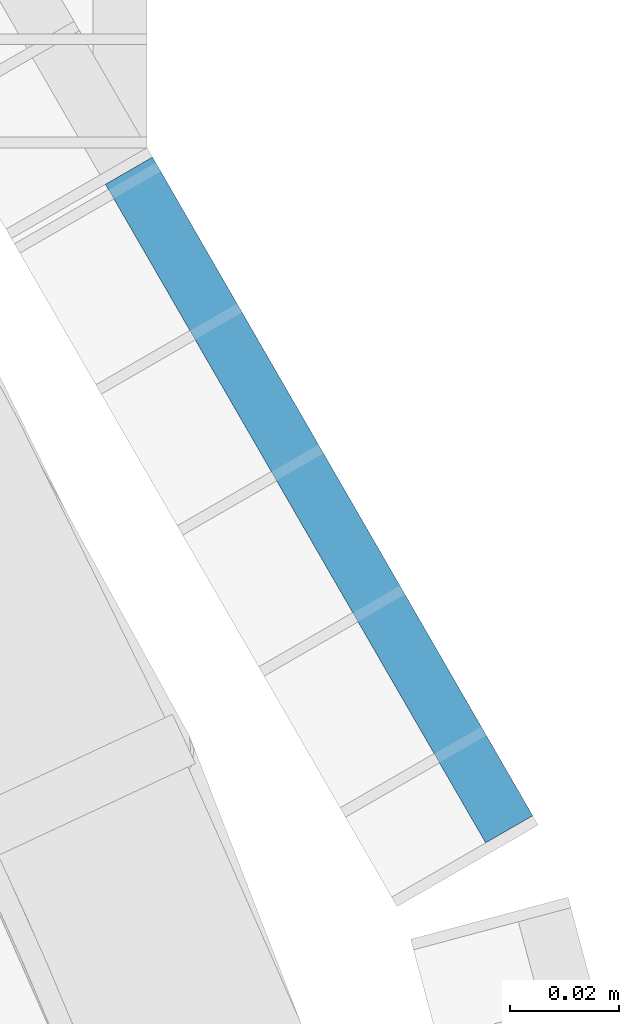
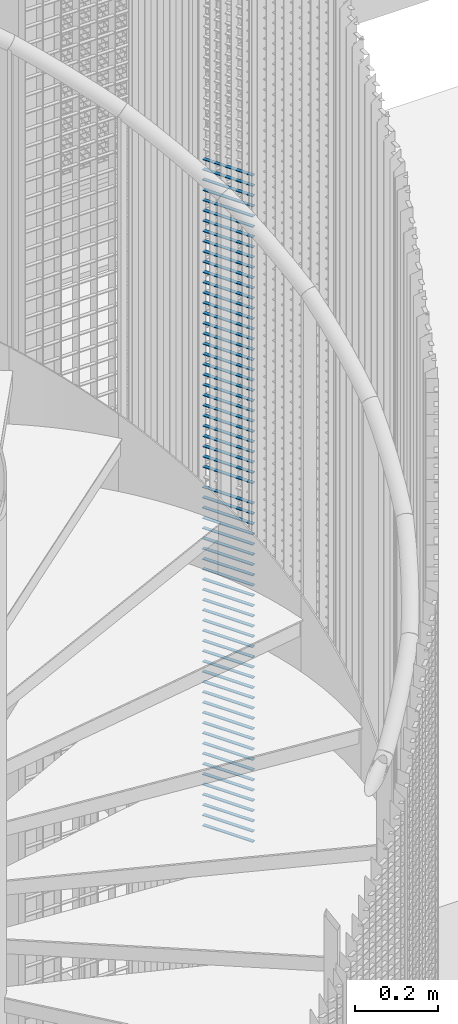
# One storey, part 269 of 1148: 65 beams, 1 element without a shape of its own.
"""IFC2X3 building model written with IfcOpenShell, lengths in millimetres."""

from ifc_helpers import new_model, si_unit, frame, origin_with_axes, origin_2d_with_axis, place, context, subcontext, project, spatial, rectangle, extrude, material, type_object, element, aggregate, save


model = new_model("IFC2X3")

# Units and contexts
model_context = context("Model", 3, precision=1e-05, world=origin_with_axes())
body_context = subcontext(model_context, "Body", "Model", "MODEL_VIEW")
ifc_project = project(units=[si_unit("LENGTHUNIT", "METRE", prefix="MILLI"), si_unit("AREAUNIT", "SQUARE_METRE"), si_unit("VOLUMEUNIT", "CUBIC_METRE"), si_unit("MASSUNIT", "GRAM", prefix="KILO"), si_unit("TIMEUNIT", "SECOND"), si_unit("PLANEANGLEUNIT", "RADIAN"), si_unit("SOLIDANGLEUNIT", "STERADIAN"), si_unit("THERMODYNAMICTEMPERATUREUNIT", "DEGREE_CELSIUS"), si_unit("LUMINOUSINTENSITYUNIT", "LUMEN")], contexts=[model_context])

# Site, building, storey
site_placement = place(None, origin_with_axes())
site = spatial("IfcSite", under=ifc_project, at=site_placement, Name="Undefined", CompositionType="ELEMENT")
building_placement = place(site_placement, origin_with_axes())
building = spatial("IfcBuilding", under=site, at=building_placement, Name="Undefined", CompositionType="ELEMENT")
storey_placement = place(building_placement, origin_with_axes())
storey = spatial("IfcBuildingStorey", under=building, at=storey_placement, Name="Undefined", CompositionType="ELEMENT", Elevation=0.0)

# Assembly, beams
assembly_placement = place(storey_placement, origin_with_axes())
assembly = element("IfcElementAssembly", 1, at=assembly_placement, inside=storey, Name="BORDURE", AssemblyPlace="NOTDEFINED", PredefinedType="NOTDEFINED")
ifc_material = material(Name="STEEL/S235JR")
beam_type = type_object("IfcBeamType", Name="PL2*10", PredefinedType="NOTDEFINED")
beam_1_placement = place(assembly_placement, frame((1033.29994283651, 437.231999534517, 14040.0), z_axis=(0.866030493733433, 0.499991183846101, 0.0), x_axis=(-0.499991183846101, 0.866030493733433, 0.0)))
beam_1 = element("IfcBeam", 2, at=beam_1_placement, type_object=beam_type, material=ifc_material, Name="ENTRETOISE", context=body_context, shape_type="SweptSolid", body=[
    extrude(rectangle(XDim=2.0, YDim=10.0, at=origin_2d_with_axis()), frame((140.102470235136, 0.0, 0.0), z_axis=(-1.0, 0.0, 0.0), x_axis=(0.0, -1.0, 0.0)), (0.0, 0.0, 1.0), 140.1),
])
beam_2_placement = place(assembly_placement, frame((1033.29994283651, 437.231999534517, 14010.0), z_axis=(0.866030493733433, 0.499991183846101, 0.0), x_axis=(-0.499991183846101, 0.866030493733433, 0.0)))
beam_2 = element("IfcBeam", 3, at=beam_2_placement, type_object=beam_type, material=ifc_material, Name="ENTRETOISE", context=body_context, shape_type="SweptSolid", body=[
    extrude(rectangle(XDim=2.0, YDim=10.0, at=origin_2d_with_axis()), frame((140.102470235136, 0.0, 0.0), z_axis=(-1.0, 0.0, 0.0), x_axis=(0.0, -1.0, 0.0)), (0.0, 0.0, 1.0), 140.1),
])
beam_3_placement = place(assembly_placement, frame((1033.29994283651, 437.231999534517, 13980.0), z_axis=(0.866030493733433, 0.499991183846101, 0.0), x_axis=(-0.499991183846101, 0.866030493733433, 0.0)))
beam_3 = element("IfcBeam", 4, at=beam_3_placement, type_object=beam_type, material=ifc_material, Name="ENTRETOISE", context=body_context, shape_type="SweptSolid", body=[
    extrude(rectangle(XDim=2.0, YDim=10.0, at=origin_2d_with_axis()), frame((140.102470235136, 0.0, 0.0), z_axis=(-1.0, 0.0, 0.0), x_axis=(0.0, -1.0, 0.0)), (0.0, 0.0, 1.0), 140.1),
])
beam_4_placement = place(assembly_placement, frame((1033.29994283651, 437.231999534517, 13950.0), z_axis=(0.866030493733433, 0.499991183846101, 0.0), x_axis=(-0.499991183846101, 0.866030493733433, 0.0)))
beam_4 = element("IfcBeam", 5, at=beam_4_placement, type_object=beam_type, material=ifc_material, Name="ENTRETOISE", context=body_context, shape_type="SweptSolid", body=[
    extrude(rectangle(XDim=2.0, YDim=10.0, at=origin_2d_with_axis()), frame((140.102470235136, 0.0, 0.0), z_axis=(-1.0, 0.0, 0.0), x_axis=(0.0, -1.0, 0.0)), (0.0, 0.0, 1.0), 140.1),
])
beam_5_placement = place(assembly_placement, frame((1033.29994283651, 437.231999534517, 13920.0), z_axis=(0.866030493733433, 0.499991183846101, 0.0), x_axis=(-0.499991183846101, 0.866030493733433, 0.0)))
beam_5 = element("IfcBeam", 6, at=beam_5_placement, type_object=beam_type, material=ifc_material, Name="ENTRETOISE", context=body_context, shape_type="SweptSolid", body=[
    extrude(rectangle(XDim=2.0, YDim=10.0, at=origin_2d_with_axis()), frame((140.102470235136, 0.0, 0.0), z_axis=(-1.0, 0.0, 0.0), x_axis=(0.0, -1.0, 0.0)), (0.0, 0.0, 1.0), 140.1),
])
beam_6_placement = place(assembly_placement, frame((1033.29994283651, 437.231999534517, 13890.0), z_axis=(0.866030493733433, 0.499991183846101, 0.0), x_axis=(-0.499991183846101, 0.866030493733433, 0.0)))
beam_6 = element("IfcBeam", 7, at=beam_6_placement, type_object=beam_type, material=ifc_material, Name="ENTRETOISE", context=body_context, shape_type="SweptSolid", body=[
    extrude(rectangle(XDim=2.0, YDim=10.0, at=origin_2d_with_axis()), frame((140.102470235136, 0.0, 0.0), z_axis=(-1.0, 0.0, 0.0), x_axis=(0.0, -1.0, 0.0)), (0.0, 0.0, 1.0), 140.1),
])
beam_7_placement = place(assembly_placement, frame((1033.29994283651, 437.231999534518, 13860.0), z_axis=(0.866030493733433, 0.499991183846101, 0.0), x_axis=(-0.499991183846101, 0.866030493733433, 0.0)))
beam_7 = element("IfcBeam", 8, at=beam_7_placement, type_object=beam_type, material=ifc_material, Name="ENTRETOISE", context=body_context, shape_type="SweptSolid", body=[
    extrude(rectangle(XDim=2.0, YDim=10.0, at=origin_2d_with_axis()), frame((140.102470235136, 0.0, 0.0), z_axis=(-1.0, 0.0, 0.0), x_axis=(0.0, -1.0, 0.0)), (0.0, 0.0, 1.0), 140.1),
])
beam_8_placement = place(assembly_placement, frame((1033.29994283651, 437.231999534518, 13830.0), z_axis=(0.866030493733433, 0.499991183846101, 0.0), x_axis=(-0.499991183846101, 0.866030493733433, 0.0)))
beam_8 = element("IfcBeam", 9, at=beam_8_placement, type_object=beam_type, material=ifc_material, Name="ENTRETOISE", context=body_context, shape_type="SweptSolid", body=[
    extrude(rectangle(XDim=2.0, YDim=10.0, at=origin_2d_with_axis()), frame((140.102470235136, 0.0, 0.0), z_axis=(-1.0, 0.0, 0.0), x_axis=(0.0, -1.0, 0.0)), (0.0, 0.0, 1.0), 140.1),
])
beam_9_placement = place(assembly_placement, frame((1033.29994283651, 437.231999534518, 13800.0), z_axis=(0.866030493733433, 0.499991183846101, 0.0), x_axis=(-0.499991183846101, 0.866030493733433, 0.0)))
beam_9 = element("IfcBeam", 10, at=beam_9_placement, type_object=beam_type, material=ifc_material, Name="ENTRETOISE", context=body_context, shape_type="SweptSolid", body=[
    extrude(rectangle(XDim=2.0, YDim=10.0, at=origin_2d_with_axis()), frame((140.102470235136, 0.0, 0.0), z_axis=(-1.0, 0.0, 0.0), x_axis=(0.0, -1.0, 0.0)), (0.0, 0.0, 1.0), 140.1),
])
beam_10_placement = place(assembly_placement, frame((1033.29994283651, 437.231999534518, 13770.0), z_axis=(0.866030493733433, 0.499991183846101, 0.0), x_axis=(-0.499991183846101, 0.866030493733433, 0.0)))
beam_10 = element("IfcBeam", 11, at=beam_10_placement, type_object=beam_type, material=ifc_material, Name="ENTRETOISE", context=body_context, shape_type="SweptSolid", body=[
    extrude(rectangle(XDim=2.0, YDim=10.0, at=origin_2d_with_axis()), frame((140.102470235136, 0.0, 0.0), z_axis=(-1.0, 0.0, 0.0), x_axis=(0.0, -1.0, 0.0)), (0.0, 0.0, 1.0), 140.1),
])
beam_11_placement = place(assembly_placement, frame((1033.29994283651, 437.231999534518, 13740.0), z_axis=(0.866030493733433, 0.499991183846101, 0.0), x_axis=(-0.499991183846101, 0.866030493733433, 0.0)))
beam_11 = element("IfcBeam", 12, at=beam_11_placement, type_object=beam_type, material=ifc_material, Name="ENTRETOISE", context=body_context, shape_type="SweptSolid", body=[
    extrude(rectangle(XDim=2.0, YDim=10.0, at=origin_2d_with_axis()), frame((140.102470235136, 0.0, 0.0), z_axis=(-1.0, 0.0, 0.0), x_axis=(0.0, -1.0, 0.0)), (0.0, 0.0, 1.0), 140.1),
])
beam_12_placement = place(assembly_placement, frame((1033.29994283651, 437.231999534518, 13710.0), z_axis=(0.866030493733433, 0.499991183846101, 0.0), x_axis=(-0.499991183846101, 0.866030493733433, 0.0)))
beam_12 = element("IfcBeam", 13, at=beam_12_placement, type_object=beam_type, material=ifc_material, Name="ENTRETOISE", context=body_context, shape_type="SweptSolid", body=[
    extrude(rectangle(XDim=2.0, YDim=10.0, at=origin_2d_with_axis()), frame((140.102470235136, 0.0, 0.0), z_axis=(-1.0, 0.0, 0.0), x_axis=(0.0, -1.0, 0.0)), (0.0, 0.0, 1.0), 140.1),
])
beam_13_placement = place(assembly_placement, frame((1033.29994283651, 437.231999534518, 13680.0), z_axis=(0.866030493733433, 0.499991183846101, 0.0), x_axis=(-0.499991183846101, 0.866030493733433, 0.0)))
beam_13 = element("IfcBeam", 14, at=beam_13_placement, type_object=beam_type, material=ifc_material, Name="ENTRETOISE", context=body_context, shape_type="SweptSolid", body=[
    extrude(rectangle(XDim=2.0, YDim=10.0, at=origin_2d_with_axis()), frame((140.102470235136, 0.0, 0.0), z_axis=(-1.0, 0.0, 0.0), x_axis=(0.0, -1.0, 0.0)), (0.0, 0.0, 1.0), 140.1),
])
beam_14_placement = place(assembly_placement, frame((1033.29994283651, 437.231999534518, 13650.0), z_axis=(0.866030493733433, 0.499991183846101, 0.0), x_axis=(-0.499991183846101, 0.866030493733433, 0.0)))
beam_14 = element("IfcBeam", 15, at=beam_14_placement, type_object=beam_type, material=ifc_material, Name="ENTRETOISE", context=body_context, shape_type="SweptSolid", body=[
    extrude(rectangle(XDim=2.0, YDim=10.0, at=origin_2d_with_axis()), frame((140.102470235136, 0.0, 0.0), z_axis=(-1.0, 0.0, 0.0), x_axis=(0.0, -1.0, 0.0)), (0.0, 0.0, 1.0), 140.1),
])
beam_15_placement = place(assembly_placement, frame((1033.29994283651, 437.231999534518, 13620.0), z_axis=(0.866030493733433, 0.499991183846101, 0.0), x_axis=(-0.499991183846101, 0.866030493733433, 0.0)))
beam_15 = element("IfcBeam", 16, at=beam_15_placement, type_object=beam_type, material=ifc_material, Name="ENTRETOISE", context=body_context, shape_type="SweptSolid", body=[
    extrude(rectangle(XDim=2.0, YDim=10.0, at=origin_2d_with_axis()), frame((140.102470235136, 0.0, 0.0), z_axis=(-1.0, 0.0, 0.0), x_axis=(0.0, -1.0, 0.0)), (0.0, 0.0, 1.0), 140.1),
])
beam_16_placement = place(assembly_placement, frame((1033.29994283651, 437.231999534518, 13590.0), z_axis=(0.866030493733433, 0.499991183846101, 0.0), x_axis=(-0.499991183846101, 0.866030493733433, 0.0)))
beam_16 = element("IfcBeam", 17, at=beam_16_placement, type_object=beam_type, material=ifc_material, Name="ENTRETOISE", context=body_context, shape_type="SweptSolid", body=[
    extrude(rectangle(XDim=2.0, YDim=10.0, at=origin_2d_with_axis()), frame((140.102470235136, 0.0, 0.0), z_axis=(-1.0, 0.0, 0.0), x_axis=(0.0, -1.0, 0.0)), (0.0, 0.0, 1.0), 140.1),
])
beam_17_placement = place(assembly_placement, frame((1033.29994283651, 437.231999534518, 13560.0), z_axis=(0.866030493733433, 0.499991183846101, 0.0), x_axis=(-0.499991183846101, 0.866030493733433, 0.0)))
beam_17 = element("IfcBeam", 18, at=beam_17_placement, type_object=beam_type, material=ifc_material, Name="ENTRETOISE", context=body_context, shape_type="SweptSolid", body=[
    extrude(rectangle(XDim=2.0, YDim=10.0, at=origin_2d_with_axis()), frame((140.102470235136, 0.0, 0.0), z_axis=(-1.0, 0.0, 0.0), x_axis=(0.0, -1.0, 0.0)), (0.0, 0.0, 1.0), 140.1),
])
beam_18_placement = place(assembly_placement, frame((1033.29994283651, 437.231999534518, 13530.0), z_axis=(0.866030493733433, 0.499991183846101, 0.0), x_axis=(-0.499991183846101, 0.866030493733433, 0.0)))
beam_18 = element("IfcBeam", 19, at=beam_18_placement, type_object=beam_type, material=ifc_material, Name="ENTRETOISE", context=body_context, shape_type="SweptSolid", body=[
    extrude(rectangle(XDim=2.0, YDim=10.0, at=origin_2d_with_axis()), frame((140.102470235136, 0.0, 0.0), z_axis=(-1.0, 0.0, 0.0), x_axis=(0.0, -1.0, 0.0)), (0.0, 0.0, 1.0), 140.1),
])
beam_19_placement = place(assembly_placement, frame((1033.29994283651, 437.231999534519, 13500.0), z_axis=(0.866030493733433, 0.499991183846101, 0.0), x_axis=(-0.499991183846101, 0.866030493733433, 0.0)))
beam_19 = element("IfcBeam", 20, at=beam_19_placement, type_object=beam_type, material=ifc_material, Name="ENTRETOISE", context=body_context, shape_type="SweptSolid", body=[
    extrude(rectangle(XDim=2.0, YDim=10.0, at=origin_2d_with_axis()), frame((140.102470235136, 0.0, 0.0), z_axis=(-1.0, 0.0, 0.0), x_axis=(0.0, -1.0, 0.0)), (0.0, 0.0, 1.0), 140.1),
])
beam_20_placement = place(assembly_placement, frame((1033.29994283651, 437.231999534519, 13470.0), z_axis=(0.866030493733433, 0.499991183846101, 0.0), x_axis=(-0.499991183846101, 0.866030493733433, 0.0)))
beam_20 = element("IfcBeam", 21, at=beam_20_placement, type_object=beam_type, material=ifc_material, Name="ENTRETOISE", context=body_context, shape_type="SweptSolid", body=[
    extrude(rectangle(XDim=2.0, YDim=10.0, at=origin_2d_with_axis()), frame((140.102470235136, 0.0, 0.0), z_axis=(-1.0, 0.0, 0.0), x_axis=(0.0, -1.0, 0.0)), (0.0, 0.0, 1.0), 140.1),
])
beam_21_placement = place(assembly_placement, frame((1033.29994283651, 437.231999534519, 13440.0), z_axis=(0.866030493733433, 0.499991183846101, 0.0), x_axis=(-0.499991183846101, 0.866030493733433, 0.0)))
beam_21 = element("IfcBeam", 22, at=beam_21_placement, type_object=beam_type, material=ifc_material, Name="ENTRETOISE", context=body_context, shape_type="SweptSolid", body=[
    extrude(rectangle(XDim=2.0, YDim=10.0, at=origin_2d_with_axis()), frame((140.102470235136, 0.0, 0.0), z_axis=(-1.0, 0.0, 0.0), x_axis=(0.0, -1.0, 0.0)), (0.0, 0.0, 1.0), 140.1),
])
beam_22_placement = place(assembly_placement, frame((1033.29994283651, 437.231999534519, 13410.0), z_axis=(0.866030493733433, 0.499991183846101, 0.0), x_axis=(-0.499991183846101, 0.866030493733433, 0.0)))
beam_22 = element("IfcBeam", 23, at=beam_22_placement, type_object=beam_type, material=ifc_material, Name="ENTRETOISE", context=body_context, shape_type="SweptSolid", body=[
    extrude(rectangle(XDim=2.0, YDim=10.0, at=origin_2d_with_axis()), frame((140.102470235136, 0.0, 0.0), z_axis=(-1.0, 0.0, 0.0), x_axis=(0.0, -1.0, 0.0)), (0.0, 0.0, 1.0), 140.1),
])
beam_23_placement = place(assembly_placement, frame((1033.29994283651, 437.231999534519, 13380.0), z_axis=(0.866030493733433, 0.499991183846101, 0.0), x_axis=(-0.499991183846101, 0.866030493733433, 0.0)))
beam_23 = element("IfcBeam", 24, at=beam_23_placement, type_object=beam_type, material=ifc_material, Name="ENTRETOISE", context=body_context, shape_type="SweptSolid", body=[
    extrude(rectangle(XDim=2.0, YDim=10.0, at=origin_2d_with_axis()), frame((140.102470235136, 0.0, 0.0), z_axis=(-1.0, 0.0, 0.0), x_axis=(0.0, -1.0, 0.0)), (0.0, 0.0, 1.0), 140.1),
])
beam_24_placement = place(assembly_placement, frame((1033.29994283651, 437.231999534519, 13350.0), z_axis=(0.866030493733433, 0.499991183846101, 0.0), x_axis=(-0.499991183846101, 0.866030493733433, 0.0)))
beam_24 = element("IfcBeam", 25, at=beam_24_placement, type_object=beam_type, material=ifc_material, Name="ENTRETOISE", context=body_context, shape_type="SweptSolid", body=[
    extrude(rectangle(XDim=2.0, YDim=10.0, at=origin_2d_with_axis()), frame((140.102470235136, 0.0, 0.0), z_axis=(-1.0, 0.0, 0.0), x_axis=(0.0, -1.0, 0.0)), (0.0, 0.0, 1.0), 140.1),
])
beam_25_placement = place(assembly_placement, frame((1033.29994283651, 437.231999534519, 13320.0), z_axis=(0.866030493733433, 0.499991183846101, 0.0), x_axis=(-0.499991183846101, 0.866030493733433, 0.0)))
beam_25 = element("IfcBeam", 26, at=beam_25_placement, type_object=beam_type, material=ifc_material, Name="ENTRETOISE", context=body_context, shape_type="SweptSolid", body=[
    extrude(rectangle(XDim=2.0, YDim=10.0, at=origin_2d_with_axis()), frame((140.102470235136, 0.0, 0.0), z_axis=(-1.0, 0.0, 0.0), x_axis=(0.0, -1.0, 0.0)), (0.0, 0.0, 1.0), 140.1),
])
beam_26_placement = place(assembly_placement, frame((1033.29994283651, 437.231999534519, 13290.0), z_axis=(0.866030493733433, 0.499991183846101, 0.0), x_axis=(-0.499991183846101, 0.866030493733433, 0.0)))
beam_26 = element("IfcBeam", 27, at=beam_26_placement, type_object=beam_type, material=ifc_material, Name="ENTRETOISE", context=body_context, shape_type="SweptSolid", body=[
    extrude(rectangle(XDim=2.0, YDim=10.0, at=origin_2d_with_axis()), frame((140.102470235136, 0.0, 0.0), z_axis=(-1.0, 0.0, 0.0), x_axis=(0.0, -1.0, 0.0)), (0.0, 0.0, 1.0), 140.1),
])
beam_27_placement = place(assembly_placement, frame((1033.29994283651, 437.231999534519, 13260.0), z_axis=(0.866030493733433, 0.499991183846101, 0.0), x_axis=(-0.499991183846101, 0.866030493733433, 0.0)))
beam_27 = element("IfcBeam", 28, at=beam_27_placement, type_object=beam_type, material=ifc_material, Name="ENTRETOISE", context=body_context, shape_type="SweptSolid", body=[
    extrude(rectangle(XDim=2.0, YDim=10.0, at=origin_2d_with_axis()), frame((140.102470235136, 0.0, 0.0), z_axis=(-1.0, 0.0, 0.0), x_axis=(0.0, -1.0, 0.0)), (0.0, 0.0, 1.0), 140.1),
])
beam_28_placement = place(assembly_placement, frame((1033.29994283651, 437.231999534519, 13230.0), z_axis=(0.866030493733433, 0.499991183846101, 0.0), x_axis=(-0.499991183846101, 0.866030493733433, 0.0)))
beam_28 = element("IfcBeam", 29, at=beam_28_placement, type_object=beam_type, material=ifc_material, Name="ENTRETOISE", context=body_context, shape_type="SweptSolid", body=[
    extrude(rectangle(XDim=2.0, YDim=10.0, at=origin_2d_with_axis()), frame((140.102470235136, 0.0, 0.0), z_axis=(-1.0, 0.0, 0.0), x_axis=(0.0, -1.0, 0.0)), (0.0, 0.0, 1.0), 140.1),
])
beam_29_placement = place(assembly_placement, frame((1033.29994283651, 437.231999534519, 13200.0), z_axis=(0.866030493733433, 0.499991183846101, 0.0), x_axis=(-0.499991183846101, 0.866030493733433, 0.0)))
beam_29 = element("IfcBeam", 30, at=beam_29_placement, type_object=beam_type, material=ifc_material, Name="ENTRETOISE", context=body_context, shape_type="SweptSolid", body=[
    extrude(rectangle(XDim=2.0, YDim=10.0, at=origin_2d_with_axis()), frame((140.102470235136, 0.0, 0.0), z_axis=(-1.0, 0.0, 0.0), x_axis=(0.0, -1.0, 0.0)), (0.0, 0.0, 1.0), 140.1),
])
beam_30_placement = place(assembly_placement, frame((1033.29994283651, 437.23199953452, 13170.0), z_axis=(0.866030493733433, 0.499991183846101, 0.0), x_axis=(-0.499991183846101, 0.866030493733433, 0.0)))
beam_30 = element("IfcBeam", 31, at=beam_30_placement, type_object=beam_type, material=ifc_material, Name="ENTRETOISE", context=body_context, shape_type="SweptSolid", body=[
    extrude(rectangle(XDim=2.0, YDim=10.0, at=origin_2d_with_axis()), frame((140.102470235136, 0.0, 0.0), z_axis=(-1.0, 0.0, 0.0), x_axis=(0.0, -1.0, 0.0)), (0.0, 0.0, 1.0), 140.1),
])
beam_31_placement = place(assembly_placement, frame((1033.29994283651, 437.23199953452, 13140.0), z_axis=(0.866030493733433, 0.499991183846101, 0.0), x_axis=(-0.499991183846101, 0.866030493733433, 0.0)))
beam_31 = element("IfcBeam", 32, at=beam_31_placement, type_object=beam_type, material=ifc_material, Name="ENTRETOISE", context=body_context, shape_type="SweptSolid", body=[
    extrude(rectangle(XDim=2.0, YDim=10.0, at=origin_2d_with_axis()), frame((140.102470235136, 0.0, 0.0), z_axis=(-1.0, 0.0, 0.0), x_axis=(0.0, -1.0, 0.0)), (0.0, 0.0, 1.0), 140.1),
])
beam_32_placement = place(assembly_placement, frame((1033.29994283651, 437.231999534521, 12720.0), z_axis=(0.866030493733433, 0.499991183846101, 0.0), x_axis=(-0.499991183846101, 0.866030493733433, 0.0)))
beam_32 = element("IfcBeam", 33, at=beam_32_placement, type_object=beam_type, material=ifc_material, Name="ENTRETOISE", context=body_context, shape_type="SweptSolid", body=[
    extrude(rectangle(XDim=2.0, YDim=10.0, at=origin_2d_with_axis()), frame((140.102470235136, 0.0, 0.0), z_axis=(-1.0, 0.0, 0.0), x_axis=(0.0, -1.0, 0.0)), (0.0, 0.0, 1.0), 140.1),
])
beam_33_placement = place(assembly_placement, frame((1033.29994283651, 437.231999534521, 12690.0), z_axis=(0.866030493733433, 0.499991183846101, 0.0), x_axis=(-0.499991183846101, 0.866030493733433, 0.0)))
beam_33 = element("IfcBeam", 34, at=beam_33_placement, type_object=beam_type, material=ifc_material, Name="ENTRETOISE", context=body_context, shape_type="SweptSolid", body=[
    extrude(rectangle(XDim=2.0, YDim=10.0, at=origin_2d_with_axis()), frame((140.102470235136, 0.0, 0.0), z_axis=(-1.0, 0.0, 0.0), x_axis=(0.0, -1.0, 0.0)), (0.0, 0.0, 1.0), 140.1),
])
beam_34_placement = place(assembly_placement, frame((1033.29994283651, 437.231999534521, 12750.0), z_axis=(0.866030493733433, 0.499991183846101, 0.0), x_axis=(-0.499991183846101, 0.866030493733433, 0.0)))
beam_34 = element("IfcBeam", 35, at=beam_34_placement, type_object=beam_type, material=ifc_material, Name="ENTRETOISE", context=body_context, shape_type="SweptSolid", body=[
    extrude(rectangle(XDim=2.0, YDim=10.0, at=origin_2d_with_axis()), frame((140.102470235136, 0.0, 0.0), z_axis=(-1.0, 0.0, 0.0), x_axis=(0.0, -1.0, 0.0)), (0.0, 0.0, 1.0), 140.1),
])
beam_35_placement = place(assembly_placement, frame((1033.29994283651, 437.231999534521, 12660.0), z_axis=(0.866030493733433, 0.499991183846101, 0.0), x_axis=(-0.499991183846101, 0.866030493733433, 0.0)))
beam_35 = element("IfcBeam", 36, at=beam_35_placement, type_object=beam_type, material=ifc_material, Name="ENTRETOISE", context=body_context, shape_type="SweptSolid", body=[
    extrude(rectangle(XDim=2.0, YDim=10.0, at=origin_2d_with_axis()), frame((140.102470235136, 0.0, 0.0), z_axis=(-1.0, 0.0, 0.0), x_axis=(0.0, -1.0, 0.0)), (0.0, 0.0, 1.0), 140.1),
])
beam_36_placement = place(assembly_placement, frame((1033.29994283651, 437.231999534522, 12630.0), z_axis=(0.866030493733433, 0.499991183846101, 0.0), x_axis=(-0.499991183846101, 0.866030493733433, 0.0)))
beam_36 = element("IfcBeam", 37, at=beam_36_placement, type_object=beam_type, material=ifc_material, Name="ENTRETOISE", context=body_context, shape_type="SweptSolid", body=[
    extrude(rectangle(XDim=2.0, YDim=10.0, at=origin_2d_with_axis()), frame((140.102470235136, 0.0, 0.0), z_axis=(-1.0, 0.0, 0.0), x_axis=(0.0, -1.0, 0.0)), (0.0, 0.0, 1.0), 140.1),
])
beam_37_placement = place(assembly_placement, frame((1033.29994283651, 437.231999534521, 12780.0), z_axis=(0.866030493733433, 0.499991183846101, 0.0), x_axis=(-0.499991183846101, 0.866030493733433, 0.0)))
beam_37 = element("IfcBeam", 38, at=beam_37_placement, type_object=beam_type, material=ifc_material, Name="ENTRETOISE", context=body_context, shape_type="SweptSolid", body=[
    extrude(rectangle(XDim=2.0, YDim=10.0, at=origin_2d_with_axis()), frame((140.102470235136, 0.0, 0.0), z_axis=(-1.0, 0.0, 0.0), x_axis=(0.0, -1.0, 0.0)), (0.0, 0.0, 1.0), 140.1),
])
beam_38_placement = place(assembly_placement, frame((1033.29994283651, 437.231999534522, 12600.0), z_axis=(0.866030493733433, 0.499991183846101, 0.0), x_axis=(-0.499991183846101, 0.866030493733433, 0.0)))
beam_38 = element("IfcBeam", 39, at=beam_38_placement, type_object=beam_type, material=ifc_material, Name="ENTRETOISE", context=body_context, shape_type="SweptSolid", body=[
    extrude(rectangle(XDim=2.0, YDim=10.0, at=origin_2d_with_axis()), frame((140.102470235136, 0.0, 0.0), z_axis=(-1.0, 0.0, 0.0), x_axis=(0.0, -1.0, 0.0)), (0.0, 0.0, 1.0), 140.1),
])
beam_39_placement = place(assembly_placement, frame((1033.29994283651, 437.231999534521, 12810.0), z_axis=(0.866030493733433, 0.499991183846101, 0.0), x_axis=(-0.499991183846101, 0.866030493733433, 0.0)))
beam_39 = element("IfcBeam", 40, at=beam_39_placement, type_object=beam_type, material=ifc_material, Name="ENTRETOISE", context=body_context, shape_type="SweptSolid", body=[
    extrude(rectangle(XDim=2.0, YDim=10.0, at=origin_2d_with_axis()), frame((140.102470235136, 0.0, 0.0), z_axis=(-1.0, 0.0, 0.0), x_axis=(0.0, -1.0, 0.0)), (0.0, 0.0, 1.0), 140.1),
])
beam_40_placement = place(assembly_placement, frame((1033.29994283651, 437.231999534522, 12570.0), z_axis=(0.866030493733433, 0.499991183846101, 0.0), x_axis=(-0.499991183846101, 0.866030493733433, 0.0)))
beam_40 = element("IfcBeam", 41, at=beam_40_placement, type_object=beam_type, material=ifc_material, Name="ENTRETOISE", context=body_context, shape_type="SweptSolid", body=[
    extrude(rectangle(XDim=2.0, YDim=10.0, at=origin_2d_with_axis()), frame((140.102470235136, 0.0, 0.0), z_axis=(-1.0, 0.0, 0.0), x_axis=(0.0, -1.0, 0.0)), (0.0, 0.0, 1.0), 140.1),
])
beam_41_placement = place(assembly_placement, frame((1033.29994283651, 437.231999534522, 12540.0), z_axis=(0.866030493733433, 0.499991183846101, 0.0), x_axis=(-0.499991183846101, 0.866030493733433, 0.0)))
beam_41 = element("IfcBeam", 42, at=beam_41_placement, type_object=beam_type, material=ifc_material, Name="ENTRETOISE", context=body_context, shape_type="SweptSolid", body=[
    extrude(rectangle(XDim=2.0, YDim=10.0, at=origin_2d_with_axis()), frame((140.102470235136, 0.0, 0.0), z_axis=(-1.0, 0.0, 0.0), x_axis=(0.0, -1.0, 0.0)), (0.0, 0.0, 1.0), 140.1),
])
beam_42_placement = place(assembly_placement, frame((1033.29994283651, 437.231999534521, 12840.0), z_axis=(0.866030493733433, 0.499991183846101, 0.0), x_axis=(-0.499991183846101, 0.866030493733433, 0.0)))
beam_42 = element("IfcBeam", 43, at=beam_42_placement, type_object=beam_type, material=ifc_material, Name="ENTRETOISE", context=body_context, shape_type="SweptSolid", body=[
    extrude(rectangle(XDim=2.0, YDim=10.0, at=origin_2d_with_axis()), frame((140.102470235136, 0.0, 0.0), z_axis=(-1.0, 0.0, 0.0), x_axis=(0.0, -1.0, 0.0)), (0.0, 0.0, 1.0), 140.1),
])
beam_43_placement = place(assembly_placement, frame((1033.29994283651, 437.231999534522, 12510.0), z_axis=(0.866030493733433, 0.499991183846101, 0.0), x_axis=(-0.499991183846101, 0.866030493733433, 0.0)))
beam_43 = element("IfcBeam", 44, at=beam_43_placement, type_object=beam_type, material=ifc_material, Name="ENTRETOISE", context=body_context, shape_type="SweptSolid", body=[
    extrude(rectangle(XDim=2.0, YDim=10.0, at=origin_2d_with_axis()), frame((140.102470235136, 0.0, 0.0), z_axis=(-1.0, 0.0, 0.0), x_axis=(0.0, -1.0, 0.0)), (0.0, 0.0, 1.0), 140.1),
])
beam_44_placement = place(assembly_placement, frame((1033.29994283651, 437.231999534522, 12480.0), z_axis=(0.866030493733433, 0.499991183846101, 0.0), x_axis=(-0.499991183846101, 0.866030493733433, 0.0)))
beam_44 = element("IfcBeam", 45, at=beam_44_placement, type_object=beam_type, material=ifc_material, Name="ENTRETOISE", context=body_context, shape_type="SweptSolid", body=[
    extrude(rectangle(XDim=2.0, YDim=10.0, at=origin_2d_with_axis()), frame((140.102470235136, 0.0, 0.0), z_axis=(-1.0, 0.0, 0.0), x_axis=(0.0, -1.0, 0.0)), (0.0, 0.0, 1.0), 140.1),
])
beam_45_placement = place(assembly_placement, frame((1033.29994283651, 437.231999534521, 12870.0), z_axis=(0.866030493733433, 0.499991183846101, 0.0), x_axis=(-0.499991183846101, 0.866030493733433, 0.0)))
beam_45 = element("IfcBeam", 46, at=beam_45_placement, type_object=beam_type, material=ifc_material, Name="ENTRETOISE", context=body_context, shape_type="SweptSolid", body=[
    extrude(rectangle(XDim=2.0, YDim=10.0, at=origin_2d_with_axis()), frame((140.102470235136, 0.0, 0.0), z_axis=(-1.0, 0.0, 0.0), x_axis=(0.0, -1.0, 0.0)), (0.0, 0.0, 1.0), 140.1),
])
beam_46_placement = place(assembly_placement, frame((1033.29994283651, 437.231999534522, 12450.0), z_axis=(0.866030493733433, 0.499991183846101, 0.0), x_axis=(-0.499991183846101, 0.866030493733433, 0.0)))
beam_46 = element("IfcBeam", 47, at=beam_46_placement, type_object=beam_type, material=ifc_material, Name="ENTRETOISE", context=body_context, shape_type="SweptSolid", body=[
    extrude(rectangle(XDim=2.0, YDim=10.0, at=origin_2d_with_axis()), frame((140.102470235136, 0.0, 0.0), z_axis=(-1.0, 0.0, 0.0), x_axis=(0.0, -1.0, 0.0)), (0.0, 0.0, 1.0), 140.1),
])
beam_47_placement = place(assembly_placement, frame((1033.29994283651, 437.231999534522, 12420.0), z_axis=(0.866030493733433, 0.499991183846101, 0.0), x_axis=(-0.499991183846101, 0.866030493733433, 0.0)))
beam_47 = element("IfcBeam", 48, at=beam_47_placement, type_object=beam_type, material=ifc_material, Name="ENTRETOISE", context=body_context, shape_type="SweptSolid", body=[
    extrude(rectangle(XDim=2.0, YDim=10.0, at=origin_2d_with_axis()), frame((140.102470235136, 0.0, 0.0), z_axis=(-1.0, 0.0, 0.0), x_axis=(0.0, -1.0, 0.0)), (0.0, 0.0, 1.0), 140.1),
])
beam_48_placement = place(assembly_placement, frame((1033.29994283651, 437.231999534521, 12900.0), z_axis=(0.866030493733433, 0.499991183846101, 0.0), x_axis=(-0.499991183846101, 0.866030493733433, 0.0)))
beam_48 = element("IfcBeam", 49, at=beam_48_placement, type_object=beam_type, material=ifc_material, Name="ENTRETOISE", context=body_context, shape_type="SweptSolid", body=[
    extrude(rectangle(XDim=2.0, YDim=10.0, at=origin_2d_with_axis()), frame((140.102470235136, 0.0, 0.0), z_axis=(-1.0, 0.0, 0.0), x_axis=(0.0, -1.0, 0.0)), (0.0, 0.0, 1.0), 140.1),
])
beam_49_placement = place(assembly_placement, frame((1033.29994283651, 437.231999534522, 12390.0), z_axis=(0.866030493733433, 0.499991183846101, 0.0), x_axis=(-0.499991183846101, 0.866030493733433, 0.0)))
beam_49 = element("IfcBeam", 50, at=beam_49_placement, type_object=beam_type, material=ifc_material, Name="ENTRETOISE", context=body_context, shape_type="SweptSolid", body=[
    extrude(rectangle(XDim=2.0, YDim=10.0, at=origin_2d_with_axis()), frame((140.102470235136, 0.0, 0.0), z_axis=(-1.0, 0.0, 0.0), x_axis=(0.0, -1.0, 0.0)), (0.0, 0.0, 1.0), 140.1),
])
beam_50_placement = place(assembly_placement, frame((1033.29994283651, 437.23199953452, 12930.0), z_axis=(0.866030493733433, 0.499991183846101, 0.0), x_axis=(-0.499991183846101, 0.866030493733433, 0.0)))
beam_50 = element("IfcBeam", 51, at=beam_50_placement, type_object=beam_type, material=ifc_material, Name="ENTRETOISE", context=body_context, shape_type="SweptSolid", body=[
    extrude(rectangle(XDim=2.0, YDim=10.0, at=origin_2d_with_axis()), frame((140.102470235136, 0.0, 0.0), z_axis=(-1.0, 0.0, 0.0), x_axis=(0.0, -1.0, 0.0)), (0.0, 0.0, 1.0), 140.1),
])
beam_51_placement = place(assembly_placement, frame((1033.29994283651, 437.231999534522, 12360.0), z_axis=(0.866030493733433, 0.499991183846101, 0.0), x_axis=(-0.499991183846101, 0.866030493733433, 0.0)))
beam_51 = element("IfcBeam", 52, at=beam_51_placement, type_object=beam_type, material=ifc_material, Name="ENTRETOISE", context=body_context, shape_type="SweptSolid", body=[
    extrude(rectangle(XDim=2.0, YDim=10.0, at=origin_2d_with_axis()), frame((140.102470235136, 0.0, 0.0), z_axis=(-1.0, 0.0, 0.0), x_axis=(0.0, -1.0, 0.0)), (0.0, 0.0, 1.0), 140.1),
])
beam_52_placement = place(assembly_placement, frame((1033.29994283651, 437.231999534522, 12330.0), z_axis=(0.866030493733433, 0.499991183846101, 0.0), x_axis=(-0.499991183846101, 0.866030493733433, 0.0)))
beam_52 = element("IfcBeam", 53, at=beam_52_placement, type_object=beam_type, material=ifc_material, Name="ENTRETOISE", context=body_context, shape_type="SweptSolid", body=[
    extrude(rectangle(XDim=2.0, YDim=10.0, at=origin_2d_with_axis()), frame((140.102470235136, 0.0, 0.0), z_axis=(-1.0, 0.0, 0.0), x_axis=(0.0, -1.0, 0.0)), (0.0, 0.0, 1.0), 140.1),
])
beam_53_placement = place(assembly_placement, frame((1033.29994283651, 437.23199953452, 12960.0), z_axis=(0.866030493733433, 0.499991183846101, 0.0), x_axis=(-0.499991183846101, 0.866030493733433, 0.0)))
beam_53 = element("IfcBeam", 54, at=beam_53_placement, type_object=beam_type, material=ifc_material, Name="ENTRETOISE", context=body_context, shape_type="SweptSolid", body=[
    extrude(rectangle(XDim=2.0, YDim=10.0, at=origin_2d_with_axis()), frame((140.102470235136, 0.0, 0.0), z_axis=(-1.0, 0.0, 0.0), x_axis=(0.0, -1.0, 0.0)), (0.0, 0.0, 1.0), 140.1),
])
beam_54_placement = place(assembly_placement, frame((1033.29994283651, 437.231999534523, 12300.0), z_axis=(0.866030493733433, 0.499991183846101, 0.0), x_axis=(-0.499991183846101, 0.866030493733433, 0.0)))
beam_54 = element("IfcBeam", 55, at=beam_54_placement, type_object=beam_type, material=ifc_material, Name="ENTRETOISE", context=body_context, shape_type="SweptSolid", body=[
    extrude(rectangle(XDim=2.0, YDim=10.0, at=origin_2d_with_axis()), frame((140.102470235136, 0.0, 0.0), z_axis=(-1.0, 0.0, 0.0), x_axis=(0.0, -1.0, 0.0)), (0.0, 0.0, 1.0), 140.1),
])
beam_55_placement = place(assembly_placement, frame((1033.29994283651, 437.231999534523, 12270.0), z_axis=(0.866030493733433, 0.499991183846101, 0.0), x_axis=(-0.499991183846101, 0.866030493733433, 0.0)))
beam_55 = element("IfcBeam", 56, at=beam_55_placement, type_object=beam_type, material=ifc_material, Name="ENTRETOISE", context=body_context, shape_type="SweptSolid", body=[
    extrude(rectangle(XDim=2.0, YDim=10.0, at=origin_2d_with_axis()), frame((140.102470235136, 0.0, 0.0), z_axis=(-1.0, 0.0, 0.0), x_axis=(0.0, -1.0, 0.0)), (0.0, 0.0, 1.0), 140.1),
])
beam_56_placement = place(assembly_placement, frame((1033.29994283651, 437.23199953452, 12990.0), z_axis=(0.866030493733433, 0.499991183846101, 0.0), x_axis=(-0.499991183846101, 0.866030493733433, 0.0)))
beam_56 = element("IfcBeam", 57, at=beam_56_placement, type_object=beam_type, material=ifc_material, Name="ENTRETOISE", context=body_context, shape_type="SweptSolid", body=[
    extrude(rectangle(XDim=2.0, YDim=10.0, at=origin_2d_with_axis()), frame((140.102470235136, 0.0, 0.0), z_axis=(-1.0, 0.0, 0.0), x_axis=(0.0, -1.0, 0.0)), (0.0, 0.0, 1.0), 140.1),
])
beam_57_placement = place(assembly_placement, frame((1033.29994283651, 437.231999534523, 12240.0), z_axis=(0.866030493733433, 0.499991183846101, 0.0), x_axis=(-0.499991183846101, 0.866030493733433, 0.0)))
beam_57 = element("IfcBeam", 58, at=beam_57_placement, type_object=beam_type, material=ifc_material, Name="ENTRETOISE", context=body_context, shape_type="SweptSolid", body=[
    extrude(rectangle(XDim=2.0, YDim=10.0, at=origin_2d_with_axis()), frame((140.102470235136, 0.0, 0.0), z_axis=(-1.0, 0.0, 0.0), x_axis=(0.0, -1.0, 0.0)), (0.0, 0.0, 1.0), 140.1),
])
beam_58_placement = place(assembly_placement, frame((1033.29994283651, 437.23199953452, 13020.0), z_axis=(0.866030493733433, 0.499991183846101, 0.0), x_axis=(-0.499991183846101, 0.866030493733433, 0.0)))
beam_58 = element("IfcBeam", 59, at=beam_58_placement, type_object=beam_type, material=ifc_material, Name="ENTRETOISE", context=body_context, shape_type="SweptSolid", body=[
    extrude(rectangle(XDim=2.0, YDim=10.0, at=origin_2d_with_axis()), frame((140.102470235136, 0.0, 0.0), z_axis=(-1.0, 0.0, 0.0), x_axis=(0.0, -1.0, 0.0)), (0.0, 0.0, 1.0), 140.1),
])
beam_59_placement = place(assembly_placement, frame((1033.29994283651, 437.231999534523, 12210.0), z_axis=(0.866030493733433, 0.499991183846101, 0.0), x_axis=(-0.499991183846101, 0.866030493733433, 0.0)))
beam_59 = element("IfcBeam", 60, at=beam_59_placement, type_object=beam_type, material=ifc_material, Name="ENTRETOISE", context=body_context, shape_type="SweptSolid", body=[
    extrude(rectangle(XDim=2.0, YDim=10.0, at=origin_2d_with_axis()), frame((140.102470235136, 0.0, 0.0), z_axis=(-1.0, 0.0, 0.0), x_axis=(0.0, -1.0, 0.0)), (0.0, 0.0, 1.0), 140.1),
])
beam_60_placement = place(assembly_placement, frame((1033.29994283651, 437.231999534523, 12180.0), z_axis=(0.866030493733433, 0.499991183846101, 0.0), x_axis=(-0.499991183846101, 0.866030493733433, 0.0)))
beam_60 = element("IfcBeam", 61, at=beam_60_placement, type_object=beam_type, material=ifc_material, Name="ENTRETOISE", context=body_context, shape_type="SweptSolid", body=[
    extrude(rectangle(XDim=2.0, YDim=10.0, at=origin_2d_with_axis()), frame((140.102470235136, 0.0, 0.0), z_axis=(-1.0, 0.0, 0.0), x_axis=(0.0, -1.0, 0.0)), (0.0, 0.0, 1.0), 140.1),
])
beam_61_placement = place(assembly_placement, frame((1033.29994283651, 437.23199953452, 13050.0), z_axis=(0.866030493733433, 0.499991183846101, 0.0), x_axis=(-0.499991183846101, 0.866030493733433, 0.0)))
beam_61 = element("IfcBeam", 62, at=beam_61_placement, type_object=beam_type, material=ifc_material, Name="ENTRETOISE", context=body_context, shape_type="SweptSolid", body=[
    extrude(rectangle(XDim=2.0, YDim=10.0, at=origin_2d_with_axis()), frame((140.102470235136, 0.0, 0.0), z_axis=(-1.0, 0.0, 0.0), x_axis=(0.0, -1.0, 0.0)), (0.0, 0.0, 1.0), 140.1),
])
beam_62_placement = place(assembly_placement, frame((1033.29994283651, 437.231999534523, 12150.0), z_axis=(0.866030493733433, 0.499991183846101, 0.0), x_axis=(-0.499991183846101, 0.866030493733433, 0.0)))
beam_62 = element("IfcBeam", 63, at=beam_62_placement, type_object=beam_type, material=ifc_material, Name="ENTRETOISE", context=body_context, shape_type="SweptSolid", body=[
    extrude(rectangle(XDim=2.0, YDim=10.0, at=origin_2d_with_axis()), frame((140.102470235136, 0.0, 0.0), z_axis=(-1.0, 0.0, 0.0), x_axis=(0.0, -1.0, 0.0)), (0.0, 0.0, 1.0), 140.1),
])
beam_63_placement = place(assembly_placement, frame((1033.29994283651, 437.231999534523, 12120.0), z_axis=(0.866030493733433, 0.499991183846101, 0.0), x_axis=(-0.499991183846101, 0.866030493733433, 0.0)))
beam_63 = element("IfcBeam", 64, at=beam_63_placement, type_object=beam_type, material=ifc_material, Name="ENTRETOISE", context=body_context, shape_type="SweptSolid", body=[
    extrude(rectangle(XDim=2.0, YDim=10.0, at=origin_2d_with_axis()), frame((140.102470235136, 0.0, 0.0), z_axis=(-1.0, 0.0, 0.0), x_axis=(0.0, -1.0, 0.0)), (0.0, 0.0, 1.0), 140.1),
])
beam_64_placement = place(assembly_placement, frame((1033.29994283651, 437.23199953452, 13080.0), z_axis=(0.866030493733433, 0.499991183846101, 0.0), x_axis=(-0.499991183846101, 0.866030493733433, 0.0)))
beam_64 = element("IfcBeam", 65, at=beam_64_placement, type_object=beam_type, material=ifc_material, Name="ENTRETOISE", context=body_context, shape_type="SweptSolid", body=[
    extrude(rectangle(XDim=2.0, YDim=10.0, at=origin_2d_with_axis()), frame((140.102470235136, 0.0, 0.0), z_axis=(-1.0, 0.0, 0.0), x_axis=(0.0, -1.0, 0.0)), (0.0, 0.0, 1.0), 140.1),
])
beam_65_placement = place(assembly_placement, frame((1033.29994283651, 437.231999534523, 12090.0), z_axis=(0.866030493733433, 0.499991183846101, 0.0), x_axis=(-0.499991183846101, 0.866030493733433, 0.0)))
beam_65 = element("IfcBeam", 66, at=beam_65_placement, type_object=beam_type, material=ifc_material, Name="ENTRETOISE", context=body_context, shape_type="SweptSolid", body=[
    extrude(rectangle(XDim=2.0, YDim=10.0, at=origin_2d_with_axis()), frame((140.102470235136, 0.0, 0.0), z_axis=(-1.0, 0.0, 0.0), x_axis=(0.0, -1.0, 0.0)), (0.0, 0.0, 1.0), 140.1),
])
aggregate(assembly, [beam_1, beam_2, beam_3, beam_4, beam_5, beam_6, beam_7, beam_8, beam_9, beam_10, beam_11, beam_12, beam_13, beam_14, beam_15, beam_16, beam_17, beam_18, beam_19, beam_20, beam_21, beam_22, beam_23, beam_24, beam_25, beam_26, beam_27, beam_28, beam_29, beam_30, beam_31, beam_32, beam_33, beam_34, beam_35, beam_36, beam_37, beam_38, beam_39, beam_40, beam_41, beam_42, beam_43, beam_44, beam_45, beam_46, beam_47, beam_48, beam_49, beam_50, beam_51, beam_52, beam_53, beam_54, beam_55, beam_56, beam_57, beam_58, beam_59, beam_60, beam_61, beam_62, beam_63, beam_64, beam_65])

save(model, "model.ifc")
